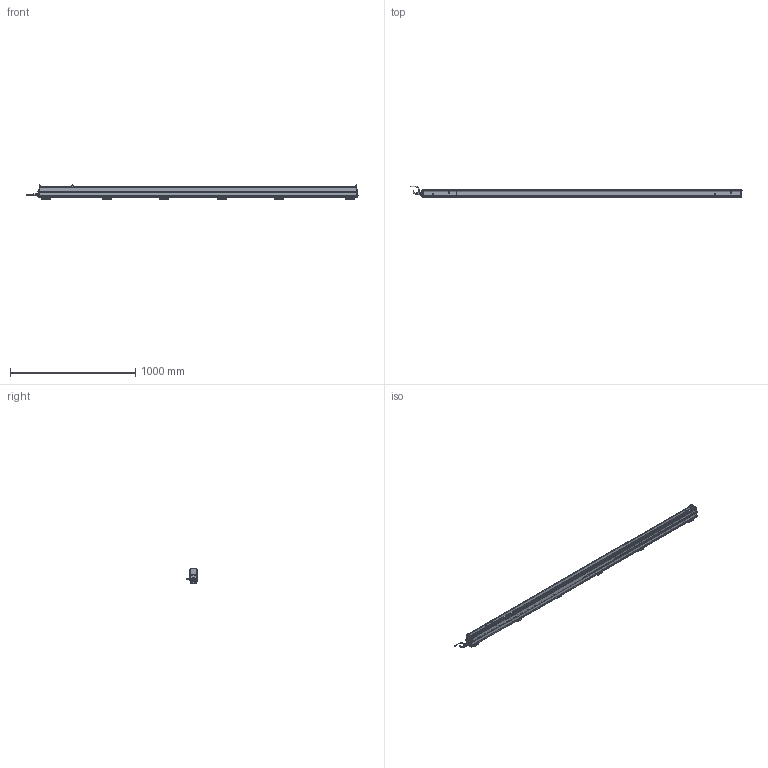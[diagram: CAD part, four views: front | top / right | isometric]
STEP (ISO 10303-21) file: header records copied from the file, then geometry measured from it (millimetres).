
FILE_DESCRIPTION(/* description */ (''),/* implementation_level */ '2;1');
FILE_NAME(/* name */ 'THUNDERION2_3D_2375-2570',/* time_stamp */ '2017-09-28T11:56:59+02:00',/* author */ (''),/* organization */ (''),/* preprocessor_version */ 'ST-DEVELOPER v15.7',/* originating_system */ 'HiCAD 2015 2002.1 Build 408',/* authorisation */ '');
FILE_SCHEMA (('AUTOMOTIVE_DESIGN { 1 0 10303 214 1 1 1 1 }'));
Products named in the file (118): Root; -_ThunderION 2375/2570; -_Side profile; -_Bar; -_Connector straight; EXTRUDED SOLID_0; -_Cord; REVOLVED SOLID_1; REVOLVED SOLID_3; DIN 13-M12x1,5; -_Connector angled; REVOLVED SOLID_2; 4532000100_Mounting bracket bars; -_Side piece; -_Slide piece; -_Bracket small; DIN 13-M3; DIN 76-M3; -_Cable End; light pipe M; light pipe L; -_Cap CE; -_Stud M4; -_Connector M12 male 5 pole_1; -_Contacts; ABSR_1_2_1_1_Inner part; ABSR_1_2_1_2_Inner part; bus; Pg 9; -_Ring tongue terminal; 9230000020_Nut M4; GEWINDE; 9240100020_Spring washer M4; ISO 7051-ST3.5x9.5-C-H_Tapping screws_0; -_Fill; -_Dead end; -_Cap DE; -_Emitter; -_Support Side Profile; -_End Plate
Assembly tree (117 placements, depth 6):
  Root
    -_ThunderION 2375/2570
      -_Side profile
      -_Side profile
      -_Bar
      -_Connector straight
        EXTRUDED SOLID_0
        -_Cord
        REVOLVED SOLID_1
        REVOLVED SOLID_3
          DIN 13-M12x1,5
      -_Connector angled
        REVOLVED SOLID_1
        EXTRUDED SOLID_0
        -_Cord
        REVOLVED SOLID_2
        REVOLVED SOLID_3
          DIN 13-M12x1,5
      4532000100_Mounting bracket bars
        -_Side piece
        -_Side piece
        -_Slide piece
        -_Bracket small
          DIN 13-M3
          DIN 13-M3
          DIN 76-M3
          DIN 76-M3
      4532000100_Mounting bracket bars
        -_Side piece
        -_Side piece
        -_Slide piece
        -_Bracket small
          DIN 13-M3
          DIN 13-M3
          DIN 76-M3
          DIN 76-M3
      4532000100_Mounting bracket bars
        -_Side piece
        -_Side piece
        -_Slide piece
        -_Bracket small
          DIN 13-M3
          DIN 13-M3
          DIN 76-M3
          DIN 76-M3
      4532000100_Mounting bracket bars
        -_Side piece
        -_Side piece
        -_Slide piece
        -_Bracket small
          DIN 13-M3
          DIN 13-M3
          DIN 76-M3
          DIN 76-M3
      4532000100_Mounting bracket bars
        -_Side piece
        -_Side piece
        -_Slide piece
        -_Bracket small
          DIN 13-M3
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Bounding box: 2648.34 x 92.24 x 113 mm (x, y, z)
Volume: 8116963 mm3; surface area: 1880563.2 mm2
Topology: 109 solids, 127 shells, 5481 faces, 14031 edges, 8509 vertices
Faces by surface type: plane 2289, cylinder 2170, bspline 312, torus 284, sphere 253, cone 173
Full cylindrical faces by diameter (mm): 0.8 x10, 1 x10, 2.387 x24, 2.5 x1, 2.64 x16, 3 x48, 3.141 x2, 3.5 x8, 4 x26, 4.2 x3, 4.4 x1, 5 x4, 5.5 x30, 7.3 x8, 8 x2, 8.4 x2, 9 x6, 9.6 x1, 10 x2, 10.16 x1, 10.5 x2, 11 x4, 12 x5, 12.8 x1, 13.8 x4, 13.86 x1, 14.5 x3, 15.199 x1, 15.2 x1
Entity records: 326921 total; most frequent: CARTESIAN_POINT 91888, DIRECTION 27093, PRESENTATION_STYLE_ASSIGNMENT 26525, OVER_RIDING_STYLED_ITEM 26420, DRAUGHTING_PRE_DEFINED_CURVE_FONT 26378, CURVE_STYLE 26378, ORIENTED_EDGE 26378, EDGE_CURVE 13189
